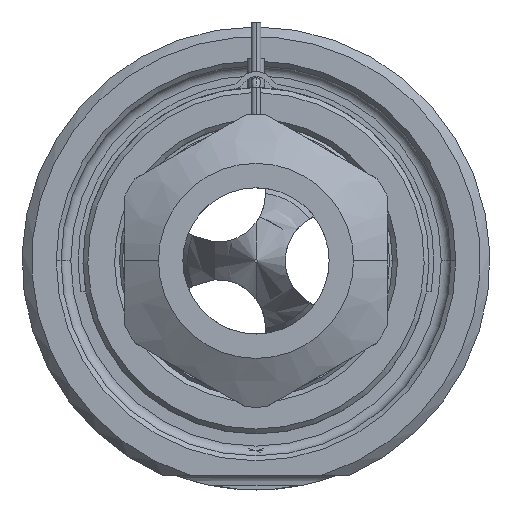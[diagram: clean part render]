
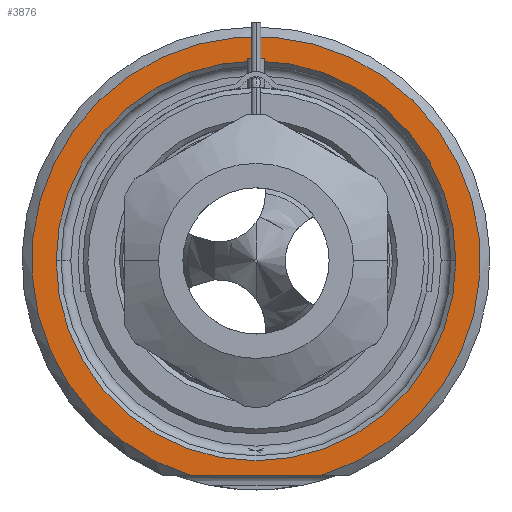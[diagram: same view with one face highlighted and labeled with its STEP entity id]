
A CAD part, front view. The second image highlights one B-rep face of the part: STEP entity #3876.
In plain terms, the highlighted planar face has unit normal (0, -1, 0).
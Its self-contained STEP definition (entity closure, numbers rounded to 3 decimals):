
#1=DIRECTION('',(1.,0.,0.));
#2=VECTOR('',#1,13.416);
#3=CARTESIAN_POINT('',(-6.708,0.,-22.));
#4=LINE('',#3,#2);
#5=CARTESIAN_POINT('',(0.,0.,0.));
#6=DIRECTION('',(0.,1.,0.));
#7=DIRECTION('',(-1.,0.,0.));
#8=AXIS2_PLACEMENT_3D('',#5,#6,#7);
#10=CARTESIAN_POINT('',(0.,0.,0.));
#11=DIRECTION('',(0.,1.,0.));
#12=DIRECTION('',(1.,0.,0.));
#13=AXIS2_PLACEMENT_3D('',#10,#11,#12);
#121=CARTESIAN_POINT('',(0.,0.,0.));
#122=DIRECTION('',(0.,-1.,0.));
#123=DIRECTION('',(0.292,0.,-0.957));
#124=AXIS2_PLACEMENT_3D('',#121,#122,#123);
#3263=CARTESIAN_POINT('',(-20.5,0.,0.));
#3264=CARTESIAN_POINT('',(20.5,0.,0.));
#3265=VERTEX_POINT('',#3263);
#3266=VERTEX_POINT('',#3264);
#3317=CARTESIAN_POINT('',(-6.708,0.,-22.));
#3318=CARTESIAN_POINT('',(6.708,0.,-22.));
#3319=VERTEX_POINT('',#3317);
#3320=VERTEX_POINT('',#3318);
#3859=CARTESIAN_POINT('',(0.,0.,0.));
#3860=DIRECTION('',(0.,-1.,0.));
#3861=DIRECTION('',(1.,0.,0.));
#3862=AXIS2_PLACEMENT_3D('',#3859,#3860,#3861);
#3863=PLANE('',#3862);
#3865=ORIENTED_EDGE('',*,*,#3864,.F.);
#3867=ORIENTED_EDGE('',*,*,#3866,.F.);
#3868=EDGE_LOOP('',(#3865,#3867));
#3869=FACE_OUTER_BOUND('',#3868,.F.);
#3871=ORIENTED_EDGE('',*,*,#3870,.F.);
#3873=ORIENTED_EDGE('',*,*,#3872,.F.);
#3874=EDGE_LOOP('',(#3871,#3873));
#3875=FACE_BOUND('',#3874,.F.);
#3876=ADVANCED_FACE('',(#3869,#3875),#3863,.T.);
#9=CIRCLE('',#8,20.5);
#14=CIRCLE('',#13,20.5);
#125=CIRCLE('',#124,23.);
#3864=EDGE_CURVE('',#3319,#3320,#4,.T.);
#3866=EDGE_CURVE('',#3320,#3319,#125,.T.);
#3870=EDGE_CURVE('',#3265,#3266,#9,.T.);
#3872=EDGE_CURVE('',#3266,#3265,#14,.T.);
